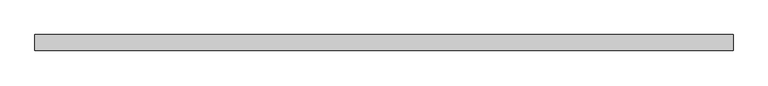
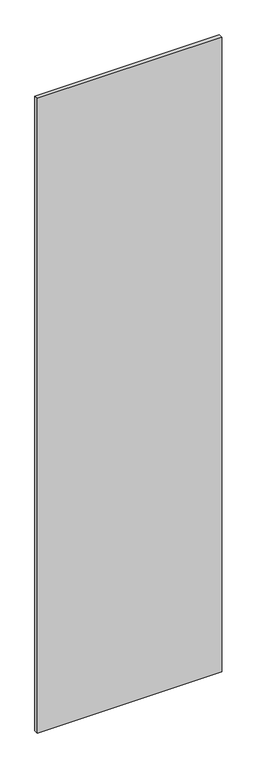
"""IFC4 building model written with IfcOpenShell, lengths in millimetres: plate geometry, 系统嵌板 : 玻璃."""

from ifc_helpers import new_model, si_unit, origin, origin_with_axes, place, context, project, spatial, polyline, outline, extrude, source, transform, mapped, element, save


def plate_c1cd2605(model_context):
    return source(origin(), model_context, "Body", "SweptSolid", [
        extrude(outline(polyline([(550.0, -12.5), (-550.0, -12.5), (-550.0, 12.5), (550.0, 12.5), (550.0, -12.5)])), origin_with_axes(), (0.0, 0.0, 1.0), 4000.0),
    ])


if __name__ == "__main__":
    model = new_model("IFC4")
    model_context = context("Model", 3, world=origin())
    ifc_project = project(units=[si_unit("LENGTHUNIT", "METRE", prefix="MILLI")], contexts=[model_context])
    site = spatial("IfcSite", under=ifc_project)
    building = spatial("IfcBuilding", under=site)
    placement = place(None, origin())
    plate_shape = plate_c1cd2605(model_context)
    element("IfcPlate", 1, ObjectType="系统嵌板 : 玻璃", at=placement, inside=building, context=model_context, shape_type="MappedRepresentation", body=[
        mapped(plate_shape, transform((0.0, 0.0, 0.0), x_axis=(1.0, 0.0, 0.0), y_axis=(0.0, 1.0, 0.0), z_axis=(0.0, 0.0, 1.0))),
    ])
    save(model, "model.ifc")
